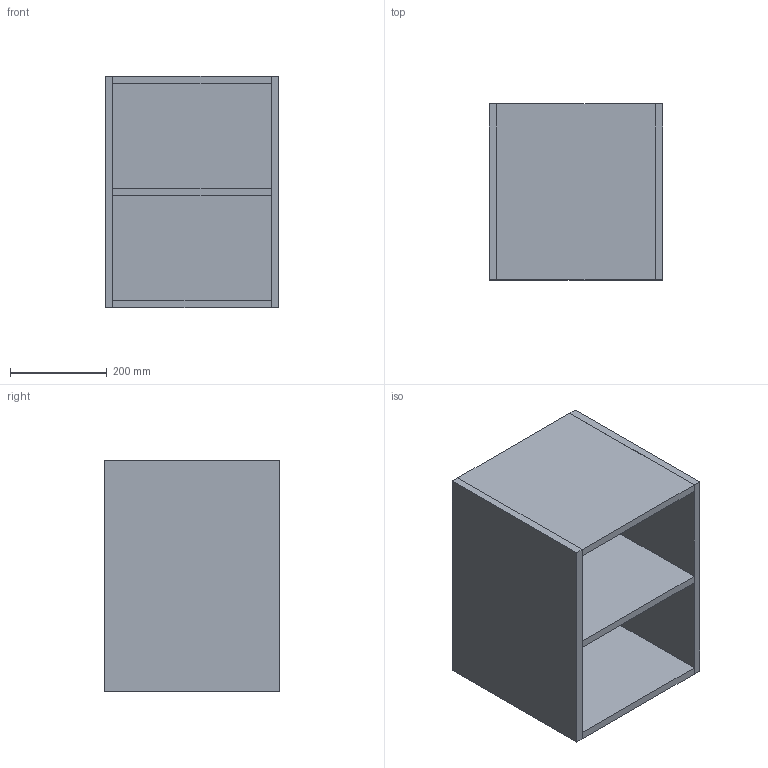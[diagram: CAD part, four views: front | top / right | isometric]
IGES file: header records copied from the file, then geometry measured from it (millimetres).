
Start section: Data from Parasolid IGES Translator 19.0.9, Copyright(c) 2006 Siemens PL M Software. All Rights Reserved.
Global section: file name: noorth-SI-H 48 D 38,8 W 36_8455.igs; native system: By Siemens PLM Incorporated; preprocessor: XPlus GENERIC/IGES 19.0.9; author: Noname; organization: Noname; date: 20200601.103835; units: metre
Bounding box: 360.01 x 364.06 x 480 mm (x, y, z)
Volume: 11742814.1 mm3; surface area: 1833975.3 mm2
Topology: 6 solids, 6 shells, 36 faces, 72 edges, 48 vertices
Faces by surface type: plane 36
